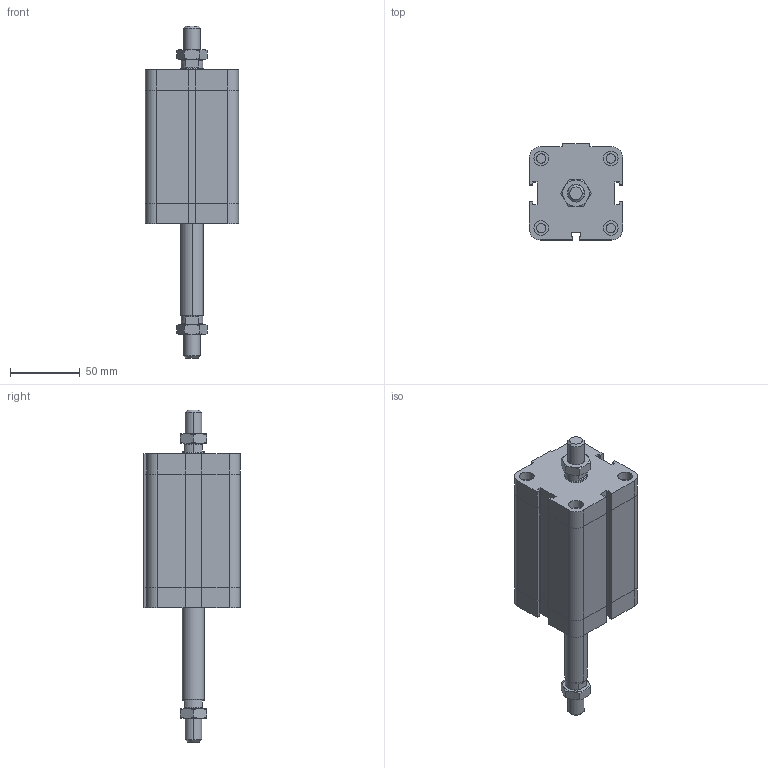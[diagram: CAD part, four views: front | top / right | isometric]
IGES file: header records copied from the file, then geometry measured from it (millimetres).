
Global section: file name: No Iges File Name specified; native system: Autodesk Inventor 2009; preprocessor: AutoDesk Inventor Iges Exporter R2009; author: maffial1; date: 20090420.200942; units: millimetre
Bounding box: 67 x 69 x 238.5 mm (x, y, z)
Volume: 488504.5 mm3; surface area: 66225.1 mm2
Topology: 4 solids, 4 shells, 260 faces, 574 edges, 342 vertices
Faces by surface type: plane 129, bspline 51, cone 38, cylinder 22, revolution 20
